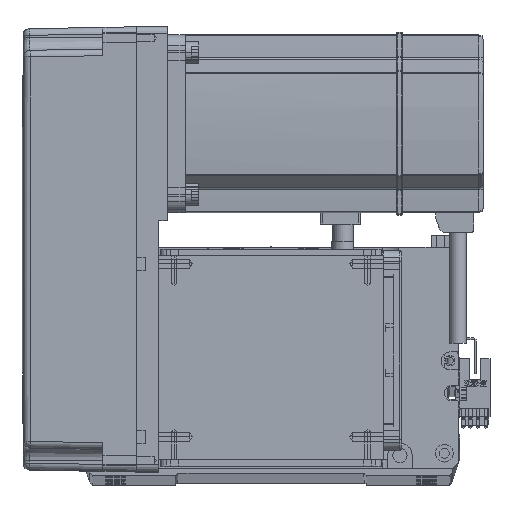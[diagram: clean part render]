
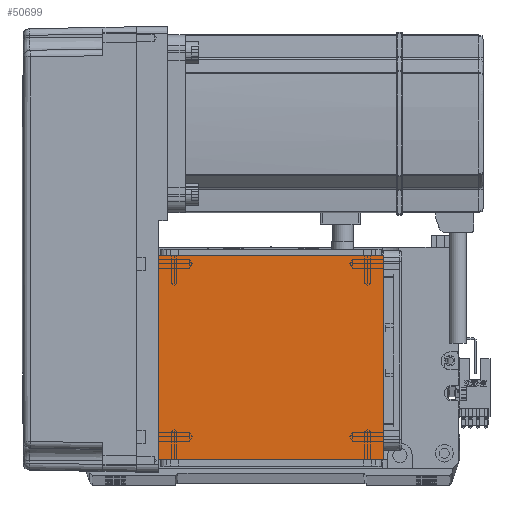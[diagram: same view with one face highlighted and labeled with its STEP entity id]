
A CAD part, top view. The second image highlights one B-rep face of the part: STEP entity #50699.
In plain terms, the highlighted planar face has unit normal (0, 0, 1).
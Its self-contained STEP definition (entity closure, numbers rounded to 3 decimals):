
#849 = AXIS2_PLACEMENT_3D ( 'NONE', #51170, #27042, #61809 ) ;
#9866 = ORIENTED_EDGE ( 'NONE', *, *, #58086, .T. ) ;
#9938 = CARTESIAN_POINT ( 'NONE',  ( -70.004, 111.5, 115. ) ) ;
#11775 = EDGE_CURVE ( 'NONE', #34220, #45941, #14348, .T. ) ;
#12101 = CARTESIAN_POINT ( 'NONE',  ( -50.5, 111.5, 115. ) ) ;
#13172 = EDGE_CURVE ( 'NONE', #64350, #45941, #20382, .T. ) ;
#13232 = VECTOR ( 'NONE', #51002, 1000. ) ;
#13358 = ORIENTED_EDGE ( 'NONE', *, *, #20140, .F. ) ;
#14348 = LINE ( 'NONE', #30587, #22098 ) ;
#14916 = VECTOR ( 'NONE', #17453, 1000. ) ;
#17453 = DIRECTION ( 'NONE',  ( 0., -1., 0. ) ) ;
#20140 = EDGE_CURVE ( 'NONE', #64350, #61624, #24697, .T. ) ;
#20382 = LINE ( 'NONE', #26577, #14916 ) ;
#22098 = VECTOR ( 'NONE', #45343, 1000. ) ;
#23855 = FACE_OUTER_BOUND ( 'NONE', #30119, .T. ) ;
#24697 = LINE ( 'NONE', #9938, #51805 ) ;
#26577 = CARTESIAN_POINT ( 'NONE',  ( -50.5, 122., 115. ) ) ;
#26844 = PLANE ( 'NONE',  #849 ) ;
#27042 = DIRECTION ( 'NONE',  ( 0., 0., 1. ) ) ;
#30119 = EDGE_LOOP ( 'NONE', ( #13358, #47146, #32903, #9866 ) ) ;
#30587 = CARTESIAN_POINT ( 'NONE',  ( -70.004, 20., 115. ) ) ;
#32903 = ORIENTED_EDGE ( 'NONE', *, *, #11775, .F. ) ;
#34220 = VERTEX_POINT ( 'NONE', #57013 ) ;
#34826 = DIRECTION ( 'NONE',  ( 1., 0., 0. ) ) ;
#45343 = DIRECTION ( 'NONE',  ( -1., 0., 0. ) ) ;
#45941 = VERTEX_POINT ( 'NONE', #54191 ) ;
#47146 = ORIENTED_EDGE ( 'NONE', *, *, #13172, .T. ) ;
#50473 = LINE ( 'NONE', #55374, #13232 ) ;
#50699 = ADVANCED_FACE ( 'NONE', ( #23855 ), #26844, .T. ) ;
#51002 = DIRECTION ( 'NONE',  ( 0., 1., 0. ) ) ;
#51170 = CARTESIAN_POINT ( 'NONE',  ( 0., 0., 115. ) ) ;
#51805 = VECTOR ( 'NONE', #34826, 1000. ) ;
#54191 = CARTESIAN_POINT ( 'NONE',  ( -50.5, 20., 115. ) ) ;
#55374 = CARTESIAN_POINT ( 'NONE',  ( 50.5, 122., 115. ) ) ;
#57013 = CARTESIAN_POINT ( 'NONE',  ( 50.5, 20., 115. ) ) ;
#58086 = EDGE_CURVE ( 'NONE', #34220, #61624, #50473, .T. ) ;
#61624 = VERTEX_POINT ( 'NONE', #62728 ) ;
#61809 = DIRECTION ( 'NONE',  ( 1., 0., 0. ) ) ;
#62728 = CARTESIAN_POINT ( 'NONE',  ( 50.5, 111.5, 115. ) ) ;
#64350 = VERTEX_POINT ( 'NONE', #12101 ) ;
